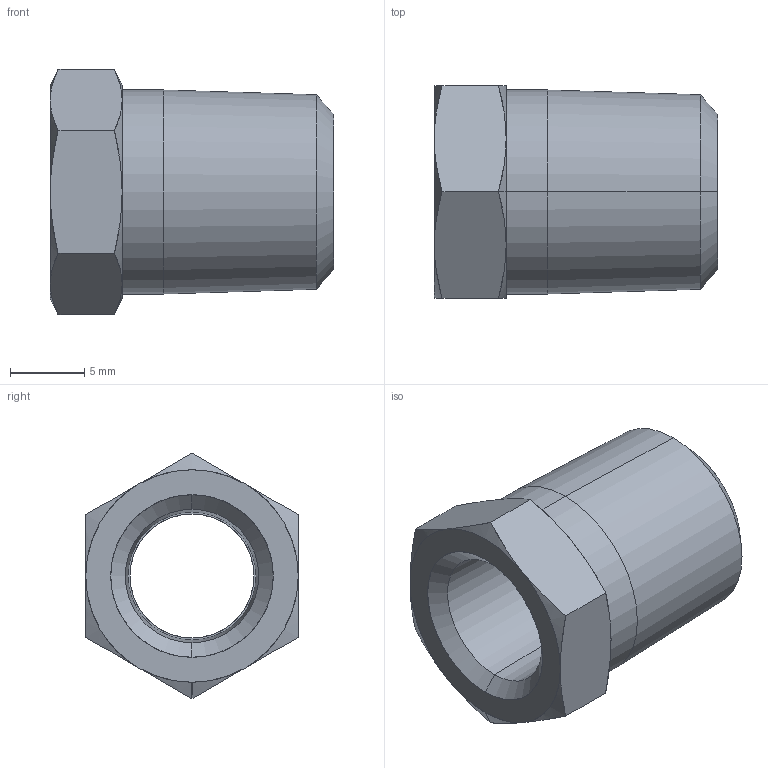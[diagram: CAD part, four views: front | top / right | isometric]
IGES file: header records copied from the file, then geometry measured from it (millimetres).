
Start section: SolidWorks IGES file using analytic representation for surfaces
Global section: file name: C:\Users\365admin\AppData\Local\Temp\InFlowXlateWorking\RB14-2.igs; native system: SolidWorks 2018; preprocessor: SolidWorks 2018; author: 365admin; date: 200819.211455; units: inch
Bounding box: 19.05 x 14.29 x 16.5 mm (x, y, z)
Surface area: 1516.7 mm2 (no closed solid volume)
Topology: 0 solids, 0 shells, 38 faces, 542 edges, 542 vertices
Faces by surface type: revolution 28, bspline 10
